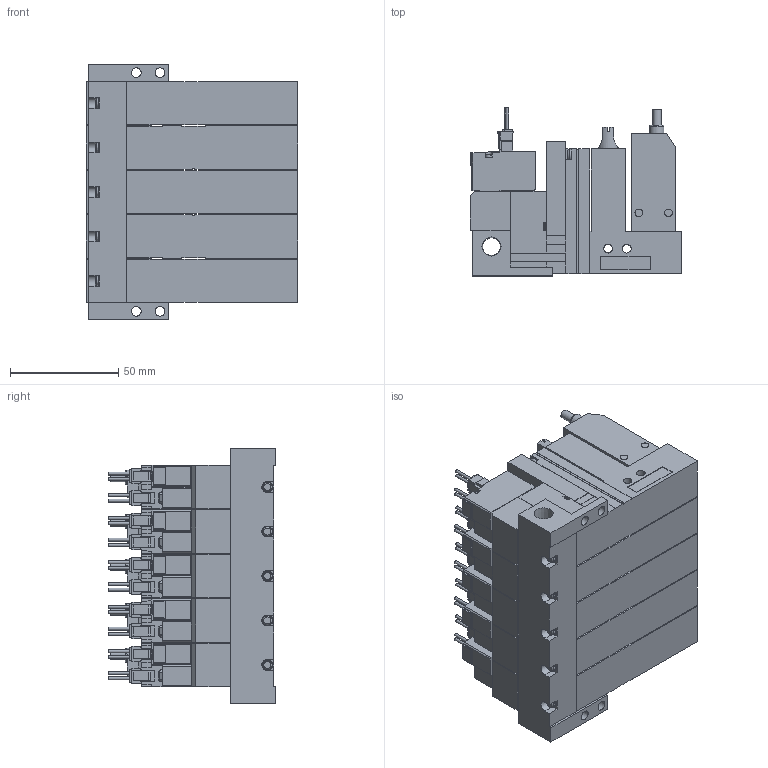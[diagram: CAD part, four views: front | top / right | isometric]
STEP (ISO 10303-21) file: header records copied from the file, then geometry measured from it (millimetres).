
FILE_DESCRIPTION(('STEP AP203'),'1');
FILE_NAME('ABS_ABPLC5ALR505.stp','2025-02-19T00:58:56',(' '),(' '),'Spatial InterOp 3D',' ',' ');
FILE_SCHEMA(('CONFIG_CONTROL_DESIGN'));
Length unit declared in the file: millimetre
Products named in the file (5): BMC22M※※※※ABS_ABPLC5ALR505; Solenoid valve A; Pressure sensor ABSLC; Unit LC; Base MR50R
Assembly tree (16 placements, depth 2):
  BMC22M※※※※ABS_ABPLC5ALR505
    Solenoid valve A  x5
    Pressure sensor ABSLC  x5
    Unit LC  x5
    Base MR50R
Bounding box: 97.6 x 77.45 x 118 mm (x, y, z)
Volume: 513256.6 mm3; surface area: 134387.1 mm2
Topology: 16 solids, 16 shells, 2076 faces, 5564 edges, 3650 vertices
Faces by surface type: plane 1764, cylinder 245, cone 37, torus 30
Full cylindrical faces by diameter (mm): 1.4 x20, 2.5 x5, 3 x20, 3.5 x30, 3.6 x5, 4 x15, 4.134 x5, 4.5 x4, 5.2 x5, 6 x5, 6.5 x5, 6.6 x5, 8.279 x1
Entity records: 15353 total; most frequent: CARTESIAN_POINT 2935, DIRECTION 2438, ORIENTED_EDGE 2418, EDGE_CURVE 1209, LINE 992, VECTOR 992, VERTEX_POINT 839, AXIS2_PLACEMENT_3D 723
